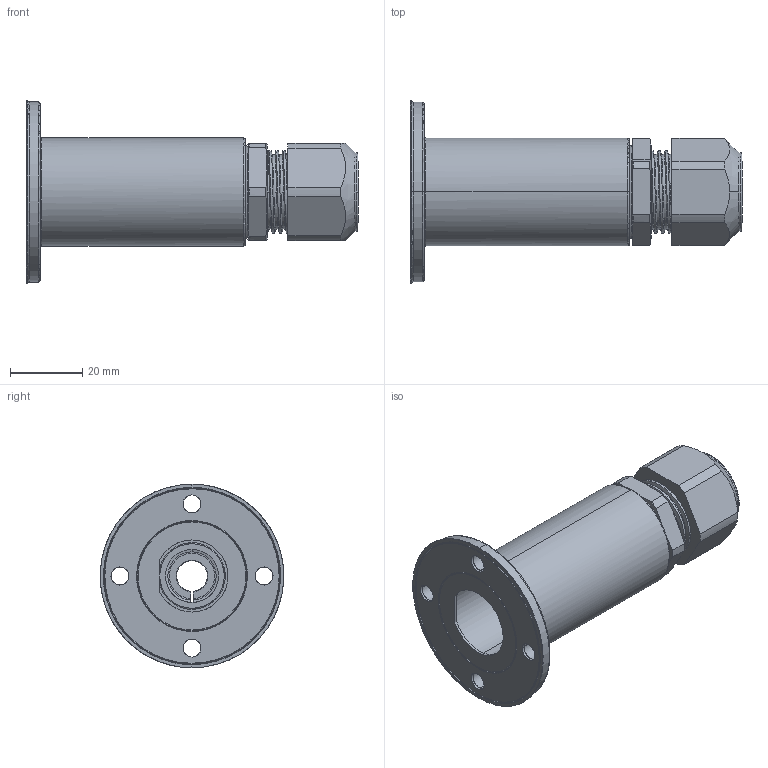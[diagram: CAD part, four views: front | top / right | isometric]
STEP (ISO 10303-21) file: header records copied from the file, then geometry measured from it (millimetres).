
FILE_DESCRIPTION (( 'STEP AP214' ), '1' );
FILE_NAME ('10078161_000.STEP', '2023-10-27T08:40:07', ( '' ), ( '' ), 'SwSTEP 2.0', 'SolidWorks 2022', '' );
FILE_SCHEMA (( 'AUTOMOTIVE_DESIGN' ));
Length unit declared in the file: millimetre
Products named in the file (1): 10078161_000
Bounding box: 92.19 x 50.94 x 51 mm (x, y, z)
Volume: 39237.8 mm3; surface area: 21295.3 mm2
Topology: 2 solids, 2 shells, 177 faces, 448 edges, 292 vertices
Faces by surface type: cylinder 78, plane 40, torus 27, cone 24, bspline 8
Entity records: 9776 total; most frequent: CARTESIAN_POINT 5661, ORIENTED_EDGE 896, DIRECTION 631, EDGE_CURVE 448, VERTEX_POINT 292, AXIS2_PLACEMENT_3D 270, B_SPLINE_CURVE_WITH_KNOTS 212, EDGE_LOOP 206
